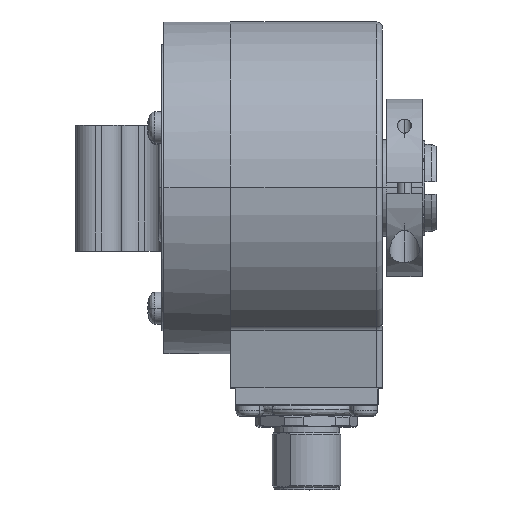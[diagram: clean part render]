
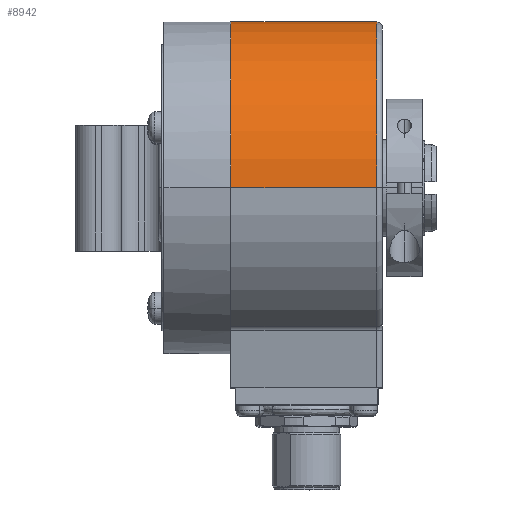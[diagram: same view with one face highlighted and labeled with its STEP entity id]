
A CAD part, top view. The second image highlights one B-rep face of the part: STEP entity #8942.
In plain terms, the highlighted cylindrical face has radius 29 mm (diameter 58 mm), a partial arc.
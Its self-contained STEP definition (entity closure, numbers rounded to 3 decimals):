
#1113 = ORIENTED_EDGE ( 'NONE', *, *, #12005, .T. ) ;
#2478 = CARTESIAN_POINT ( 'NONE',  ( 8.068, 25.423, 29. ) ) ;
#3574 = AXIS2_PLACEMENT_3D ( 'NONE', #20747, #17447, #7492 ) ;
#4020 = VERTEX_POINT ( 'NONE', #14079 ) ;
#4129 = VERTEX_POINT ( 'NONE', #13600 ) ;
#4830 = CARTESIAN_POINT ( 'NONE',  ( 33.568, 25.423, 0. ) ) ;
#5066 = EDGE_LOOP ( 'NONE', ( #13706, #21937, #1113, #12694 ) ) ;
#5930 = LINE ( 'NONE', #2478, #9516 ) ;
#6064 = CIRCLE ( 'NONE', #3574, 29. ) ;
#6233 = DIRECTION ( 'NONE',  ( -1., 0., 0. ) ) ;
#6496 = CARTESIAN_POINT ( 'NONE',  ( 33.568, 25.423, 29. ) ) ;
#6938 = CIRCLE ( 'NONE', #18692, 29. ) ;
#7481 = AXIS2_PLACEMENT_3D ( 'NONE', #19454, #13105, #21323 ) ;
#7492 = DIRECTION ( 'NONE',  ( 0., 0., -1. ) ) ;
#8942 = ADVANCED_FACE ( 'NONE', ( #12995 ), #21216, .T. ) ;
#9516 = VECTOR ( 'NONE', #21279, 1000. ) ;
#9873 = CARTESIAN_POINT ( 'NONE',  ( 8.068, 25.423, -29. ) ) ;
#11594 = LINE ( 'NONE', #13042, #13641 ) ;
#11774 = DIRECTION ( 'NONE',  ( -1., 0., 0. ) ) ;
#12005 = EDGE_CURVE ( 'NONE', #4020, #13136, #11594, .T. ) ;
#12694 = ORIENTED_EDGE ( 'NONE', *, *, #21931, .F. ) ;
#12995 = FACE_OUTER_BOUND ( 'NONE', #5066, .T. ) ;
#13042 = CARTESIAN_POINT ( 'NONE',  ( 8.068, 25.423, -29. ) ) ;
#13096 = DIRECTION ( 'NONE',  ( 0., 0., -1. ) ) ;
#13105 = DIRECTION ( 'NONE',  ( -1., 0., 0. ) ) ;
#13136 = VERTEX_POINT ( 'NONE', #9873 ) ;
#13600 = CARTESIAN_POINT ( 'NONE',  ( 8.068, 25.423, 29. ) ) ;
#13641 = VECTOR ( 'NONE', #6233, 1000. ) ;
#13706 = ORIENTED_EDGE ( 'NONE', *, *, #18624, .F. ) ;
#14079 = CARTESIAN_POINT ( 'NONE',  ( 33.568, 25.423, -29. ) ) ;
#15731 = EDGE_CURVE ( 'NONE', #15786, #4020, #6938, .T. ) ;
#15786 = VERTEX_POINT ( 'NONE', #6496 ) ;
#17447 = DIRECTION ( 'NONE',  ( -1., 0., 0. ) ) ;
#18624 = EDGE_CURVE ( 'NONE', #15786, #4129, #5930, .T. ) ;
#18692 = AXIS2_PLACEMENT_3D ( 'NONE', #4830, #11774, #13096 ) ;
#19454 = CARTESIAN_POINT ( 'NONE',  ( 8.068, 25.423, 0. ) ) ;
#20747 = CARTESIAN_POINT ( 'NONE',  ( 8.068, 25.423, 0. ) ) ;
#21216 = CYLINDRICAL_SURFACE ( 'NONE', #7481, 29. ) ;
#21279 = DIRECTION ( 'NONE',  ( -1., 0., 0. ) ) ;
#21323 = DIRECTION ( 'NONE',  ( 0., 0., -1. ) ) ;
#21931 = EDGE_CURVE ( 'NONE', #4129, #13136, #6064, .T. ) ;
#21937 = ORIENTED_EDGE ( 'NONE', *, *, #15731, .T. ) ;
